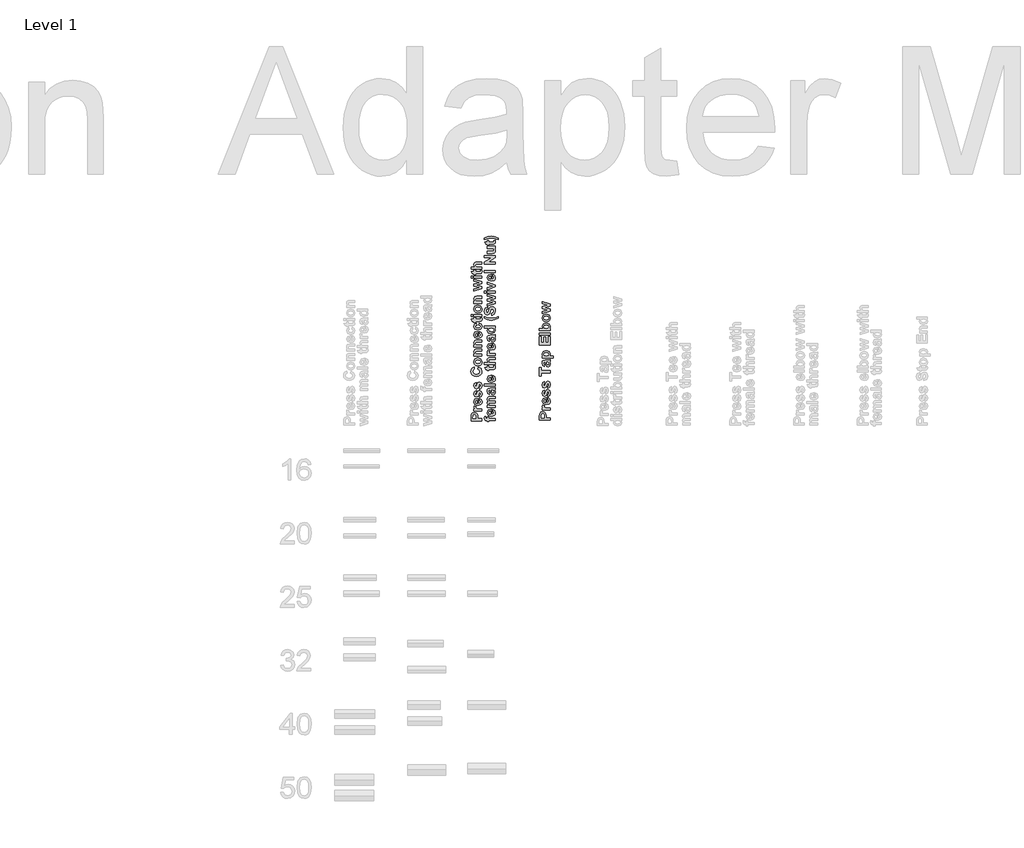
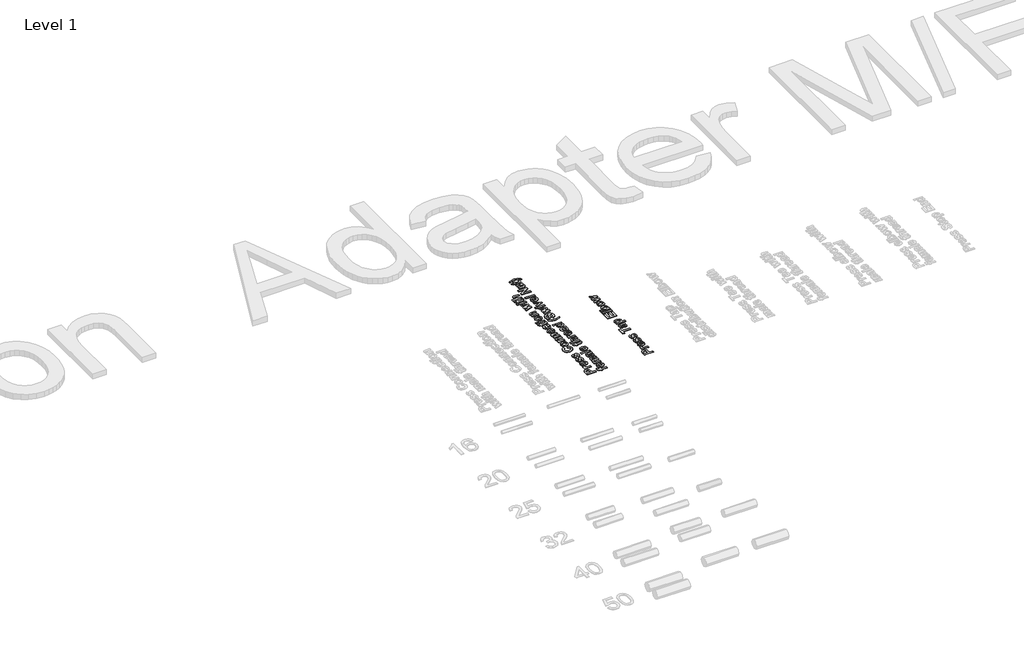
# One storey, part 43 of 58: 2 proxies.
"""IFC4 building model written with IfcOpenShell, lengths in millimetres."""

import ifcopenshell
import ifcopenshell.guid

model = None  # the IFC model being written
_history = None  # IfcOwnerHistory: only IFC2X3 demands one
_inside = {}  # id of a spatial element -> (the spatial element, [elements in it])
_under = {}  # id of a project, library or spatial element -> (it, [spatial elements below it])
_declared = {}  # id of a project -> (the project, [libraries it declares])
_typed = {}  # id of a type object -> (the type object, [elements of that type])
_made_of = {}  # id of a material, layer set ... -> (it, [elements and type objects made of it])


def new_model(schema):
    """Start an empty IFC model of exactly this schema.

    Asked for "IFC4X3", IfcOpenShell would pick the latest addendum, in which some entities
    have other attributes; the version numbers below select the first issue.
    IFC2X3 requires an IfcOwnerHistory on every rooted entity: one is made here for all.
    """
    global model, _history
    if schema == "IFC4X3":
        model = ifcopenshell.file(schema_version=(4, 3, 0, 0))
    else:
        model = ifcopenshell.file(schema=schema)
    _inside.clear()
    _under.clear()
    _declared.clear()
    _typed.clear()
    _made_of.clear()
    _history = None
    if model.schema == "IFC2X3":
        org = make("IfcOrganization", Name="unknown")
        user = make(
            "IfcPersonAndOrganization",
            ThePerson=make("IfcPerson", FamilyName="unknown"),
            TheOrganization=org,
        )
        app = make(
            "IfcApplication",
            ApplicationDeveloper=org,
            Version="unknown",
            ApplicationFullName="unknown",
            ApplicationIdentifier="unknown",
        )
        _history = make(
            "IfcOwnerHistory",
            OwningUser=user,
            OwningApplication=app,
            ChangeAction="ADDED",
            CreationDate=0,
        )
    return model


def make(cls, **values):
    """One entity of the class cls with the attributes given. An attribute that is None is left unset."""
    return model.create_entity(
        cls, **{name: value for name, value in values.items() if value is not None}
    )


def rooted(cls, **values):
    """An entity with a GlobalId (a new one), such as an element, a storey or a relation."""
    return make(cls, GlobalId=ifcopenshell.guid.new(), OwnerHistory=_history, **values)


def si_unit(unit_type, name, prefix=None):
    """IfcSIUnit, for example si_unit("LENGTHUNIT", "METRE", prefix="MILLI")."""
    return make("IfcSIUnit", UnitType=unit_type, Prefix=prefix, Name=name)


def assignment(units):
    """IfcUnitAssignment: the units of a project."""
    return None if units is None else make("IfcUnitAssignment", Units=units)


def point(xyz):
    """IfcCartesianPoint."""
    return None if xyz is None else make("IfcCartesianPoint", Coordinates=xyz)


def direction(xyz):
    """IfcDirection."""
    return None if xyz is None else make("IfcDirection", DirectionRatios=xyz)


def frame(location, z_axis=None, x_axis=None):
    """IfcAxis2Placement3D, a coordinate frame: its origin and axes. An axis left out is left unset."""
    return make(
        "IfcAxis2Placement3D",
        Location=point(location),
        Axis=direction(z_axis),
        RefDirection=direction(x_axis),
    )


def origin():
    """The frame at (0, 0, 0) with its axes left unset."""
    return frame((0.0, 0.0, 0.0))


def place(relative_to, where):
    """IfcLocalPlacement: puts the frame where relative to a parent placement (None: the world)."""
    return make(
        "IfcLocalPlacement", PlacementRelTo=relative_to, RelativePlacement=where
    )


def context(
    kind, dimensions, precision=None, world=None, true_north=None, identifier=None
):
    """IfcGeometricRepresentationContext, for example the 3D "Model" context."""
    return make(
        "IfcGeometricRepresentationContext",
        ContextIdentifier=identifier,
        ContextType=kind,
        CoordinateSpaceDimension=dimensions,
        Precision=precision,
        WorldCoordinateSystem=world,
        TrueNorth=true_north,
    )


def project(units=None, contexts=None):
    """IfcProject with its units and contexts."""
    return rooted(
        "IfcProject",
        Name="project",
        RepresentationContexts=contexts,
        UnitsInContext=assignment(units),
    )


def spatial(cls, under=None, at=None, **own):
    """A site, building, storey or space (cls), placed at a placement, below another one or the project."""
    s = rooted(cls, ObjectPlacement=at, **own)
    if under is not None:
        _under.setdefault(under.id(), (under, []))[1].append(s)
    return s


def polyline(points):
    """IfcPolyline through the points."""
    return make("IfcPolyline", Points=[point(p) for p in points])


def outline(outer, holes=None, kind="AREA"):
    """IfcArbitraryClosedProfileDef: a profile drawn as a closed curve; with holes, ...WithVoids."""
    if holes is None:
        return make("IfcArbitraryClosedProfileDef", ProfileType=kind, OuterCurve=outer)
    return make(
        "IfcArbitraryProfileDefWithVoids",
        ProfileType=kind,
        OuterCurve=outer,
        InnerCurves=holes,
    )


def extrude(swept, where, along, depth):
    """IfcExtrudedAreaSolid: the profile swept, set in the frame where, extruded along a direction by depth."""
    return make(
        "IfcExtrudedAreaSolid",
        SweptArea=swept,
        Position=where,
        ExtrudedDirection=direction(along),
        Depth=depth,
    )


def shape(context_of_items, identifier, shape_type, items):
    """IfcShapeRepresentation: the items that make up one representation, for example the "Body"."""
    return make(
        "IfcShapeRepresentation",
        ContextOfItems=context_of_items,
        RepresentationIdentifier=identifier,
        RepresentationType=shape_type,
        Items=items,
    )


def made_of(thing, what):
    """Note that an element or type object is made of a material, layer set ...; save() writes the relation."""
    if what is not None:
        _made_of.setdefault(what.id(), (what, []))[1].append(thing)
    return thing


def element(
    cls,
    number,
    at=None,
    inside=None,
    cuts=None,
    type_object=None,
    material=None,
    context=None,
    identifier="Body",
    shape_type=None,
    held_by="IfcProductDefinitionShape",
    body=None,
    shapes=None,
    **own,
):
    """One element of the class cls, such as IfcWall. Its Tag is "e" and its number.

    at: its placement. inside: the storey or other place that contains it. cuts: it is an
    opening in that element (IfcRelVoidsElement). A single representation is given by context,
    identifier, shape_type and body (its items); several are given by shapes. held_by: the class
    of the entity that holds the representations. save() writes the other relations.
    """
    e = rooted(cls, Tag="e%d" % number, ObjectPlacement=at, **own)
    if body is not None:
        shapes = [shape(context, identifier, shape_type, body)]
    if shapes is not None:
        e.Representation = make(held_by, Representations=shapes)
    if inside is not None:
        _inside.setdefault(inside.id(), (inside, []))[1].append(e)
    if cuts is not None:
        rooted(
            "IfcRelVoidsElement", RelatingBuildingElement=cuts, RelatedOpeningElement=e
        )
    if type_object is not None:
        _typed.setdefault(type_object.id(), (type_object, []))[1].append(e)
    return made_of(e, material)


def aggregate(whole, parts):
    """IfcRelAggregates: a whole, such as a stair, and the parts it consists of."""
    return rooted("IfcRelAggregates", RelatingObject=whole, RelatedObjects=parts)


def save(model, path):
    """Write the relations noted so far, then the file.

    IfcRelAggregates (storeys below a building ...), IfcRelContainedInSpatialStructure (elements
    in a storey), IfcRelDefinesByType, IfcRelAssociatesMaterial and IfcRelDeclares: one each for
    every whole, place, type object, material and project.
    """
    for whole, parts in _under.values():
        aggregate(whole, parts)
    for where, things in _inside.values():
        rooted(
            "IfcRelContainedInSpatialStructure",
            RelatedElements=things,
            RelatingStructure=where,
        )
    for kind, things in _typed.values():
        rooted("IfcRelDefinesByType", RelatedObjects=things, RelatingType=kind)
    for what, things in _made_of.values():
        rooted("IfcRelAssociatesMaterial", RelatedObjects=things, RelatingMaterial=what)
    for by, libraries in _declared.values():
        rooted("IfcRelDeclares", RelatingContext=by, RelatedDefinitions=libraries)
    model.write(path)


model = new_model("IFC4")

# Units and contexts
model_context = context("Model", 3, world=origin())
ifc_project = project(units=[si_unit("LENGTHUNIT", "METRE", prefix="MILLI")], contexts=[model_context])

# Site, building, storey
site = spatial("IfcSite", under=ifc_project)
building = spatial("IfcBuilding", under=site)
storey = spatial("IfcBuildingStorey", under=building, Name="Level 1", Elevation=27.3876384)

# Proxies
placement = place(None, origin())
element("IfcBuildingElementProxy", 1, Name="50mm Arial", ObjectType="50mm Arial", at=placement, inside=storey, context=model_context, shape_type="SweptSolid", body=[
    extrude(outline(polyline([(30019.1417262, 30425.6094805), (29968.1287562, 30425.6094805), (29968.1287562, 30442.0444627), (29968.8878778, 30454.228364), (29973.8537981, 30461.5349092), (29983.7287046, 30464.4765053), (29991.5792869, 30462.7495037), (29996.5768373, 30458.3592506), (29998.9870483, 30452.9505093), (29999.7082138, 30442.1330269), (29999.7082138, 30435.3262367), (30019.1417262, 30435.3262367), (30019.1417262, 30425.6094805)]), holes=[polyline([(29977.0357827, 30435.3262367), (29990.8011873, 30435.3262367), (29990.8011873, 30441.3612533), (29990.0420657, 30450.0721734), (29987.6571588, 30453.5135245), (29983.8805289, 30454.7597491), (29979.5155798, 30453.0074435), (29977.3647354, 30448.5855603), (29977.0357827, 30440.6527398), (29977.0357827, 30435.3262367)])]), frame((0.0, 0.0, 27.3876384), z_axis=(0.0, 0.0, 1.0), x_axis=(1.0, 0.0, 0.0)), (0.0, 0.0, 1.0), 2.0),
    extrude(outline(polyline([(30019.1417262, 30482.2905583), (30019.1417262, 30472.5738021), (29981.8941608, 30472.5738021), (29981.8941608, 30482.2905583), (29987.0814916, 30482.2905583), (29982.2420915, 30486.1747304), (29981.0844311, 30490.0968585), (29983.1340594, 30496.0559629), (29992.3826906, 30493.221909), (29990.8011873, 30488.7177877), (29991.9082396, 30485.2954145), (29995.8999539, 30483.093962), (30007.995291, 30482.2905583), (30019.1417262, 30482.2905583)])), frame((0.0, 0.0, 27.3876384), z_axis=(0.0, 0.0, 1.0), x_axis=(1.0, 0.0, 0.0)), (0.0, 0.0, 1.0), 2.0),
    extrude(outline(polyline([(30007.8055106, 30521.1575831), (30009.42497, 30530.8743392), (30017.2629003, 30525.0797112), (30019.9514559, 30515.1731746), (30018.3667896, 30506.9841506), (30013.6127907, 30501.2432937), (30000.7962881, 30497.6754223), (29986.32237, 30502.4072801), (29981.0844311, 30514.376097), (29986.4615423, 30527.1925996), (30002.9471325, 30531.6840689), (30002.9471325, 30507.3921785), (30010.1081794, 30509.6821952), (30012.6638887, 30515.1352185), (30011.5125543, 30518.8675663), (30007.8055106, 30521.1575831)]), holes=[polyline([(29997.2790248, 30521.9673127), (29990.643037, 30519.8038162), (29988.3719982, 30514.7936138), (29990.7632312, 30509.580979), (29997.2790248, 30507.5566548), (29997.2790248, 30521.9673127)])]), frame((0.0, 0.0, 27.3876384), z_axis=(0.0, 0.0, 1.0), x_axis=(1.0, 0.0, 0.0)), (0.0, 0.0, 1.0), 2.0),
    extrude(outline(polyline([(30008.6152403, 30534.9229877), (30006.9957809, 30544.6397439), (30011.2215577, 30547.125867), (30012.6638887, 30552.3701319), (30011.2848179, 30557.9496755), (30008.7038045, 30559.2148781), (30006.8819127, 30558.5443207), (30005.604058, 30555.3686621), (30000.8468962, 30540.8061799), (29992.4839068, 30536.542447), (29984.3739579, 30540.1988826), (29981.0844311, 30551.5477502), (29983.7413566, 30562.4158408), (29991.610917, 30567.312175), (29993.2303763, 30557.5954188), (29989.6245488, 30555.7229189), (29988.3719982, 30551.8007907), (29989.4347685, 30547.1828011), (29991.4084846, 30546.2592032), (29993.1671162, 30547.1828011), (29995.8873019, 30555.779853), (30000.2269469, 30566.0469723), (30007.527166, 30568.9316343), (30016.2886942, 30564.7501396), (30019.9514559, 30552.3701319), (30016.9023175, 30540.5974215), (30008.6152403, 30534.9229877)])), frame((0.0, 0.0, 27.3876384), z_axis=(0.0, 0.0, 1.0), x_axis=(1.0, 0.0, 0.0)), (0.0, 0.0, 1.0), 2.0),
    extrude(outline(polyline([(30008.6152403, 30573.7900124), (30006.9957809, 30583.5067686), (30011.2215577, 30585.9928918), (30012.6638887, 30591.2371567), (30011.2848179, 30596.8167003), (30008.7038045, 30598.0819029), (30006.8819127, 30597.4113455), (30005.604058, 30594.2356869), (30000.8468962, 30579.6732046), (29992.4839068, 30575.4094718), (29984.3739579, 30579.0659074), (29981.0844311, 30590.414775), (29983.7413566, 30601.2828655), (29991.610917, 30606.1791997), (29993.2303763, 30596.4624435), (29989.6245488, 30594.5899436), (29988.3719982, 30590.6678155), (29989.4347685, 30586.0498259), (29991.4084846, 30585.126228), (29993.1671162, 30586.0498259), (29995.8873019, 30594.6468778), (30000.2269469, 30604.9139971), (30007.527166, 30607.7986591), (30016.2886942, 30603.6171644), (30019.9514559, 30591.2371567), (30016.9023175, 30579.4644462), (30008.6152403, 30573.7900124)])), frame((0.0, 0.0, 27.3876384), z_axis=(0.0, 0.0, 1.0), x_axis=(1.0, 0.0, 0.0)), (0.0, 0.0, 1.0), 2.0),
    extrude(outline(polyline([(29999.7082138, 30669.338115), (30002.9471325, 30679.0548711), (30015.1500119, 30671.4003952), (30019.1417262, 30657.812119), (30017.4368656, 30648.5350207), (30012.322284, 30641.0734882), (30004.2502912, 30636.158176), (29993.6731973, 30634.5197386), (29982.5583922, 30636.1724095), (29974.2396849, 30641.1304223), (29969.0491911, 30648.7833167), (29967.3190265, 30658.5206325), (29968.7455425, 30667.0480982), (29973.0250904, 30673.8042802), (29982.7038905, 30679.0548711), (29984.3233498, 30669.338115), (29978.3958755, 30665.3084446), (29976.226053, 30657.8500751), (29980.1671592, 30648.0131246), (29992.9267277, 30644.2364948), (30006.2619634, 30647.8992564), (30010.2346997, 30657.4325582), (30007.6979684, 30664.8656237), (29999.7082138, 30669.338115)])), frame((0.0, 0.0, 27.3876384), z_axis=(0.0, 0.0, 1.0), x_axis=(1.0, 0.0, 0.0)), (0.0, 0.0, 1.0), 2.0),
    extrude(outline(polyline([(29999.9865584, 30684.7229789), (29990.5038647, 30687.1205379), (29983.5009681, 30693.90835), (29981.0844311, 30703.7136704), (29986.5627585, 30717.4347929), (30000.4167273, 30722.780274), (30014.4035423, 30717.3778588), (30019.9514559, 30703.7895825), (30017.6424611, 30694.1171084), (30010.867301, 30687.1205379), (29999.9865584, 30684.7229789)]), holes=[polyline([(30000.5179435, 30694.4397351), (30009.5325122, 30697.1282907), (30012.6638887, 30703.7642785), (30009.5325122, 30710.3876143), (30000.4420313, 30713.0635178), (29991.5033747, 30710.3876143), (29988.3719982, 30703.7642785), (29991.5033747, 30697.1282907), (30000.5179435, 30694.4397351)])]), frame((0.0, 0.0, 27.3876384), z_axis=(0.0, 0.0, 1.0), x_axis=(1.0, 0.0, 0.0)), (0.0, 0.0, 1.0), 2.0),
    extrude(outline(polyline([(30019.1417262, 30763.2667581), (30019.1417262, 30753.5500019), (29999.9992104, 30753.5500019), (29992.1296501, 30752.9427047), (29989.3588563, 30750.9563365), (29988.3719982, 30747.6541577), (29989.7826992, 30743.2069704), (29993.527699, 30740.5120888), (30002.1500549, 30739.7845973), (30019.1417262, 30739.7845973), (30019.1417262, 30730.0678411), (29981.8941608, 30730.0678411), (29981.8941608, 30739.7845973), (29987.2586199, 30739.7845973), (29982.6279783, 30745.0003952), (29981.0844311, 30751.4118095), (29982.2610695, 30757.0546132), (29985.2595998, 30760.9261333), (29989.3904864, 30762.7543511), (29996.0138221, 30763.2667581), (30019.1417262, 30763.2667581)])), frame((0.0, 0.0, 27.3876384), z_axis=(0.0, 0.0, 1.0), x_axis=(1.0, 0.0, 0.0)), (0.0, 0.0, 1.0), 2.0),
    extrude(outline(polyline([(30019.1417262, 30806.1824313), (30019.1417262, 30796.4656751), (29999.9992104, 30796.4656751), (29992.1296501, 30795.8583778), (29989.3588563, 30793.8720097), (29988.3719982, 30790.5698309), (29989.7826992, 30786.1226436), (29993.527699, 30783.427762), (30002.1500549, 30782.7002705), (30019.1417262, 30782.7002705), (30019.1417262, 30772.9835143), (29981.8941608, 30772.9835143), (29981.8941608, 30782.7002705), (29987.2586199, 30782.7002705), (29982.6279783, 30787.9160683), (29981.0844311, 30794.3274827), (29982.2610695, 30799.9702864), (29985.2595998, 30803.8418064), (29989.3904864, 30805.6700242), (29996.0138221, 30806.1824313), (30019.1417262, 30806.1824313)])), frame((0.0, 0.0, 27.3876384), z_axis=(0.0, 0.0, 1.0), x_axis=(1.0, 0.0, 0.0)), (0.0, 0.0, 1.0), 2.0),
    extrude(outline(polyline([(30007.8055106, 30836.9521592), (30009.42497, 30846.6689154), (30017.2629003, 30840.8742874), (30019.9514559, 30830.9677508), (30018.3667896, 30822.7787268), (30013.6127907, 30817.0378699), (30000.7962881, 30813.4699984), (29986.32237, 30818.2018563), (29981.0844311, 30830.1706731), (29986.4615423, 30842.9871758), (30002.9471325, 30847.4786451), (30002.9471325, 30823.1867546), (30010.1081794, 30825.4767714), (30012.6638887, 30830.9297947), (30011.5125543, 30834.6621425), (30007.8055106, 30836.9521592)]), holes=[polyline([(29997.2790248, 30837.7618889), (29990.643037, 30835.5983924), (29988.3719982, 30830.58819), (29990.7632312, 30825.3755552), (29997.2790248, 30823.351231), (29997.2790248, 30837.7618889)])]), frame((0.0, 0.0, 27.3876384), z_axis=(0.0, 0.0, 1.0), x_axis=(1.0, 0.0, 0.0)), (0.0, 0.0, 1.0), 2.0),
    extrude(outline(polyline([(29992.4206467, 30885.5359402), (29994.040106, 30875.819184), (29989.7953512, 30873.7505777), (29988.3719982, 30869.556431), (29991.0415758, 30864.0907556), (29999.9612543, 30862.0537794), (30009.7918788, 30864.1729938), (30012.6638887, 30869.8600796), (30011.0254513, 30874.2313547), (30005.3763216, 30876.6289137), (30006.9957809, 30886.3456699), (30016.6809071, 30880.7471482), (30019.9514559, 30869.6449952), (30014.8020812, 30857.037251), (30000.5558996, 30852.3370232), (29986.2148278, 30857.0056209), (29981.0844311, 30869.6449952), (29983.8868549, 30880.0070047), (29992.4206467, 30885.5359402)])), frame((0.0, 0.0, 27.3876384), z_axis=(0.0, 0.0, 1.0), x_axis=(1.0, 0.0, 0.0)), (0.0, 0.0, 1.0), 2.0),
    extrude(outline(polyline([(29981.8941608, 30911.44729), (29989.1817279, 30911.44729), (29989.1817279, 30904.1597229), (30005.1612371, 30904.1597229), (30010.8103669, 30904.3811333), (30012.1388296, 30905.3869694), (30012.6638887, 30907.2974254), (30011.7276388, 30911.8521549), (30018.6356451, 30912.2570197), (30019.9514559, 30904.2988952), (30019.04051, 30899.389909), (30016.6872331, 30896.1826203), (30012.777757, 30894.7592674), (30005.7052743, 30894.4429667), (29989.1817279, 30894.4429667), (29989.1817279, 30889.5845886), (29981.8941608, 30889.5845886), (29981.8941608, 30894.4429667), (29974.6065936, 30894.4429667), (29968.9384859, 30904.1597229), (29981.8941608, 30904.1597229), (29981.8941608, 30911.44729)])), frame((0.0, 0.0, 27.3876384), z_axis=(0.0, 0.0, 1.0), x_axis=(1.0, 0.0, 0.0)), (0.0, 0.0, 1.0), 2.0),
    extrude(outline(polyline([(29977.0357827, 30917.1153978), (29968.1287562, 30917.1153978), (29968.1287562, 30926.832154), (29977.0357827, 30926.832154), (29977.0357827, 30917.1153978)])), frame((0.0, 0.0, 27.3876384), z_axis=(0.0, 0.0, 1.0), x_axis=(1.0, 0.0, 0.0)), (0.0, 0.0, 1.0), 2.0),
    extrude(outline(polyline([(30019.1417262, 30917.1153978), (29981.8941608, 30917.1153978), (29981.8941608, 30926.832154), (30019.1417262, 30926.832154), (30019.1417262, 30917.1153978)])), frame((0.0, 0.0, 27.3876384), z_axis=(0.0, 0.0, 1.0), x_axis=(1.0, 0.0, 0.0)), (0.0, 0.0, 1.0), 2.0),
    extrude(outline(polyline([(29999.9865584, 30934.1197211), (29990.5038647, 30936.5172801), (29983.5009681, 30943.3050922), (29981.0844311, 30953.1104126), (29986.5627585, 30966.8315351), (30000.4167273, 30972.1770162), (30014.4035423, 30966.774601), (30019.9514559, 30953.1863248), (30017.6424611, 30943.5138507), (30010.867301, 30936.5172801), (29999.9865584, 30934.1197211)]), holes=[polyline([(30000.5179435, 30943.8364773), (30009.5325122, 30946.5250329), (30012.6638887, 30953.1610207), (30009.5325122, 30959.7843565), (30000.4420313, 30962.46026), (29991.5033747, 30959.7843565), (29988.3719982, 30953.1610207), (29991.5033747, 30946.5250329), (30000.5179435, 30943.8364773)])]), frame((0.0, 0.0, 27.3876384), z_axis=(0.0, 0.0, 1.0), x_axis=(1.0, 0.0, 0.0)), (0.0, 0.0, 1.0), 2.0),
    extrude(outline(polyline([(30019.1417262, 31012.6635003), (30019.1417262, 31002.9467441), (29999.9992104, 31002.9467441), (29992.1296501, 31002.3394469), (29989.3588563, 31000.3530788), (29988.3719982, 30997.0508999), (29989.7826992, 30992.6037127), (29993.527699, 30989.9088311), (30002.1500549, 30989.1813395), (30019.1417262, 30989.1813395), (30019.1417262, 30979.4645834), (29981.8941608, 30979.4645834), (29981.8941608, 30989.1813395), (29987.2586199, 30989.1813395), (29982.6279783, 30994.3971374), (29981.0844311, 31000.8085517), (29982.2610695, 31006.4513554), (29985.2595998, 31010.3228755), (29989.3904864, 31012.1510933), (29996.0138221, 31012.6635003), (30019.1417262, 31012.6635003)])), frame((0.0, 0.0, 27.3876384), z_axis=(0.0, 0.0, 1.0), x_axis=(1.0, 0.0, 0.0)), (0.0, 0.0, 1.0), 2.0),
    extrude(outline(polyline([(30019.1417262, 31049.5821131), (29981.8941608, 31037.7651205), (29981.8941608, 31047.3680085), (30006.2999195, 31054.364579), (29981.8941608, 31060.9056766), (29981.8941608, 31070.6477368), (30006.2999195, 31077.0370101), (29981.8941608, 31084.0588847), (29981.8941608, 31093.6364686), (30019.1417262, 31081.8447801), (30019.1417262, 31072.3051523), (29995.1914404, 31065.7007945), (30019.1417262, 31059.2609132), (30019.1417262, 31049.5821131)])), frame((0.0, 0.0, 27.3876384), z_axis=(0.0, 0.0, 1.0), x_axis=(1.0, 0.0, 0.0)), (0.0, 0.0, 1.0), 2.0),
    extrude(outline(polyline([(29977.0357827, 31098.4948467), (29968.1287562, 31098.4948467), (29968.1287562, 31108.2116029), (29977.0357827, 31108.2116029), (29977.0357827, 31098.4948467)])), frame((0.0, 0.0, 27.3876384), z_axis=(0.0, 0.0, 1.0), x_axis=(1.0, 0.0, 0.0)), (0.0, 0.0, 1.0), 2.0),
    extrude(outline(polyline([(30019.1417262, 31098.4948467), (29981.8941608, 31098.4948467), (29981.8941608, 31108.2116029), (30019.1417262, 31108.2116029), (30019.1417262, 31098.4948467)])), frame((0.0, 0.0, 27.3876384), z_axis=(0.0, 0.0, 1.0), x_axis=(1.0, 0.0, 0.0)), (0.0, 0.0, 1.0), 2.0),
    extrude(outline(polyline([(29981.8941608, 31135.7424121), (29989.1817279, 31135.7424121), (29989.1817279, 31128.4548449), (30005.1612371, 31128.4548449), (30010.8103669, 31128.6762554), (30012.1388296, 31129.6820915), (30012.6638887, 31131.5925475), (30011.7276388, 31136.1472769), (30018.6356451, 31136.5521418), (30019.9514559, 31128.5940172), (30019.04051, 31123.685031), (30016.6872331, 31120.4777424), (30012.777757, 31119.0543894), (30005.7052743, 31118.7380887), (29989.1817279, 31118.7380887), (29989.1817279, 31113.8797107), (29981.8941608, 31113.8797107), (29981.8941608, 31118.7380887), (29974.6065936, 31118.7380887), (29968.9384859, 31128.4548449), (29981.8941608, 31128.4548449), (29981.8941608, 31135.7424121)])), frame((0.0, 0.0, 27.3876384), z_axis=(0.0, 0.0, 1.0), x_axis=(1.0, 0.0, 0.0)), (0.0, 0.0, 1.0), 2.0),
    extrude(outline(polyline([(29968.1287562, 31151.127276), (29986.6007146, 31151.127276), (29981.0844311, 31162.2484072), (29982.3433077, 31168.2454676), (29985.5695744, 31172.268812), (29989.9155455, 31174.1160078), (29997.3043288, 31174.6094368), (30019.1417262, 31174.6094368), (30019.1417262, 31164.8926807), (29999.328653, 31164.8926807), (29991.8323274, 31164.3486435), (29989.3082482, 31162.4255355), (29988.3719982, 31158.9841844), (29989.5739407, 31154.7331035), (29993.1924203, 31151.9939398), (30000.3534671, 31151.127276), (30019.1417262, 31151.127276), (30019.1417262, 31141.4105199), (29968.1287562, 31141.4105199), (29968.1287562, 31151.127276)])), frame((0.0, 0.0, 27.3876384), z_axis=(0.0, 0.0, 1.0), x_axis=(1.0, 0.0, 0.0)), (0.0, 0.0, 1.0), 2.0),
    extrude(outline(polyline([(30044.8498357, 30421.5608321), (30044.8498357, 30426.4192102), (30042.1296501, 30426.4192102), (30035.3355119, 30427.4060683), (30031.6854023, 30431.0371998), (30030.2747014, 30437.7301217), (30031.4892959, 30445.8527226), (30038.1063057, 30444.6381281), (30037.5622686, 30440.1213547), (30038.5364746, 30437.0658903), (30042.2814744, 30436.1359664), (30044.8498357, 30436.1359664), (30044.8498357, 30443.4235335), (30052.1374028, 30443.4235335), (30052.1374028, 30436.1359664), (30082.0974011, 30436.1359664), (30082.0974011, 30426.4192102), (30052.1374028, 30426.4192102), (30052.1374028, 30421.5608321), (30044.8498357, 30421.5608321)])), frame((0.0, 0.0, 27.3876384), z_axis=(0.0, 0.0, 1.0), x_axis=(1.0, 0.0, 0.0)), (0.0, 0.0, 1.0), 2.0),
    extrude(outline(polyline([(30070.7611855, 30470.1446131), (30072.3806449, 30479.8613693), (30080.2185752, 30474.0667412), (30082.9071308, 30464.1602046), (30081.3224645, 30455.9711806), (30076.5684656, 30450.2303237), (30063.751963, 30446.6624523), (30049.2780449, 30451.3943101), (30044.040106, 30463.363127), (30049.4172172, 30476.1796296), (30065.9028074, 30480.6710989), (30065.9028074, 30456.3792085), (30073.0638543, 30458.6692252), (30075.6195636, 30464.1222485), (30074.4682292, 30467.8545963), (30070.7611855, 30470.1446131)]), holes=[polyline([(30060.2346997, 30470.9543427), (30053.5987119, 30468.7908462), (30051.3276732, 30463.7806438), (30053.7189061, 30458.568009), (30060.2346997, 30456.5436848), (30060.2346997, 30470.9543427)])]), frame((0.0, 0.0, 27.3876384), z_axis=(0.0, 0.0, 1.0), x_axis=(1.0, 0.0, 0.0)), (0.0, 0.0, 1.0), 2.0),
    extrude(outline(polyline([(30044.8498357, 30487.1489364), (30044.8498357, 30496.8656926), (30049.8347341, 30496.8656926), (30044.040106, 30507.7337832), (30045.463459, 30513.5473892), (30049.7714739, 30517.5897116), (30045.463459, 30522.7580644), (30044.040106, 30528.6855387), (30045.7038475, 30535.4543728), (30050.5938556, 30539.6042374), (30058.2989396, 30540.5910954), (30082.0974011, 30540.5910954), (30082.0974011, 30530.8743392), (30060.6522165, 30530.8743392), (30053.4532136, 30529.8874812), (30051.3276732, 30525.8135287), (30052.5992018, 30522.0495509), (30056.3252235, 30519.5064936), (30064.0809157, 30518.728394), (30082.0974011, 30518.728394), (30082.0974011, 30509.0116378), (30061.5378584, 30509.0116378), (30054.4717017, 30508.5055568), (30052.1057728, 30506.9430315), (30051.3276732, 30504.0646955), (30052.5612457, 30500.1299154), (30056.1291171, 30497.6248142), (30063.8658312, 30496.8656926), (30082.0974011, 30496.8656926), (30082.0974011, 30487.1489364), (30044.8498357, 30487.1489364)])), frame((0.0, 0.0, 27.3876384), z_axis=(0.0, 0.0, 1.0), x_axis=(1.0, 0.0, 0.0)), (0.0, 0.0, 1.0), 2.0),
    extrude(outline(polyline([(30056.1860513, 30558.4051485), (30054.5665919, 30549.4981219), (30046.6211194, 30554.3881301), (30044.040106, 30564.6932055), (30045.6026313, 30573.9418367), (30049.5627155, 30578.2182216), (30058.3748518, 30579.4581202), (30069.8628917, 30579.4581202), (30077.0998507, 30579.9705273), (30082.0974011, 30581.8873092), (30082.0974011, 30572.1705531), (30079.0103067, 30571.2596072), (30081.6229501, 30565.7180196), (30082.9071308, 30559.8095234), (30079.7884063, 30551.0732992), (30071.9125199, 30547.8786626), (30066.2950203, 30549.3020155), (30062.5120644, 30553.2937298), (30060.2220476, 30560.6951652), (30057.8055106, 30569.741364), (30052.5802238, 30568.5330955), (30051.3276732, 30563.984692), (30052.4030954, 30560.4547767), (30056.1860513, 30558.4051485)]), holes=[polyline([(30065.0930778, 30569.741364), (30066.4405186, 30564.2630366), (30067.9777398, 30559.3540504), (30071.0774862, 30557.5954188), (30074.2721228, 30559.0061197), (30075.6195636, 30562.5929692), (30074.0507124, 30567.2362628), (30071.1407463, 30569.3871073), (30066.8517094, 30569.741364), (30065.0930778, 30569.741364)])]), frame((0.0, 0.0, 27.3876384), z_axis=(0.0, 0.0, 1.0), x_axis=(1.0, 0.0, 0.0)), (0.0, 0.0, 1.0), 2.0),
    extrude(outline(polyline([(30082.0974011, 30589.1748764), (30031.0844311, 30589.1748764), (30031.0844311, 30598.8916326), (30082.0974011, 30598.8916326), (30082.0974011, 30589.1748764)])), frame((0.0, 0.0, 27.3876384), z_axis=(0.0, 0.0, 1.0), x_axis=(1.0, 0.0, 0.0)), (0.0, 0.0, 1.0), 2.0),
    extrude(outline(polyline([(30070.7611855, 30629.6613605), (30072.3806449, 30639.3781167), (30080.2185752, 30633.5834887), (30082.9071308, 30623.6769521), (30081.3224645, 30615.4879281), (30076.5684656, 30609.7470711), (30063.751963, 30606.1791997), (30049.2780449, 30610.9110576), (30044.040106, 30622.8798744), (30049.4172172, 30635.6963771), (30065.9028074, 30640.1878464), (30065.9028074, 30615.8959559), (30073.0638543, 30618.1859727), (30075.6195636, 30623.638996), (30074.4682292, 30627.3713438), (30070.7611855, 30629.6613605)]), holes=[polyline([(30060.2346997, 30630.4710902), (30053.5987119, 30628.3075937), (30051.3276732, 30623.2973913), (30053.7189061, 30618.0847565), (30060.2346997, 30616.0604323), (30060.2346997, 30630.4710902)])]), frame((0.0, 0.0, 27.3876384), z_axis=(0.0, 0.0, 1.0), x_axis=(1.0, 0.0, 0.0)), (0.0, 0.0, 1.0), 2.0),
    extrude(outline(polyline([(30044.8498357, 30684.7229789), (30052.1374028, 30684.7229789), (30052.1374028, 30677.4354118), (30068.116912, 30677.4354118), (30073.7660418, 30677.6568222), (30075.0945045, 30678.6626583), (30075.6195636, 30680.5731143), (30074.6833137, 30685.1278438), (30081.59132, 30685.5327086), (30082.9071308, 30677.5745841), (30081.9961849, 30672.6655979), (30079.642908, 30669.4583092), (30075.7334319, 30668.0349562), (30068.6609492, 30667.7186556), (30052.1374028, 30667.7186556), (30052.1374028, 30662.8602775), (30044.8498357, 30662.8602775), (30044.8498357, 30667.7186556), (30037.5622686, 30667.7186556), (30031.8941608, 30677.4354118), (30044.8498357, 30677.4354118), (30044.8498357, 30684.7229789)])), frame((0.0, 0.0, 27.3876384), z_axis=(0.0, 0.0, 1.0), x_axis=(1.0, 0.0, 0.0)), (0.0, 0.0, 1.0), 2.0),
    extrude(outline(polyline([(30031.0844311, 30700.1078429), (30049.5563895, 30700.1078429), (30044.040106, 30711.228974), (30045.2989826, 30717.2260345), (30048.5252493, 30721.2493788), (30052.8712204, 30723.0965747), (30060.2600037, 30723.5900037), (30082.0974011, 30723.5900037), (30082.0974011, 30713.8732475), (30062.2843279, 30713.8732475), (30054.7880024, 30713.3292104), (30052.2639231, 30711.4061024), (30051.3276732, 30707.9647512), (30052.5296157, 30703.7136704), (30056.1480952, 30700.9745067), (30063.3091421, 30700.1078429), (30082.0974011, 30700.1078429), (30082.0974011, 30690.3910867), (30031.0844311, 30690.3910867), (30031.0844311, 30700.1078429)])), frame((0.0, 0.0, 27.3876384), z_axis=(0.0, 0.0, 1.0), x_axis=(1.0, 0.0, 0.0)), (0.0, 0.0, 1.0), 2.0),
    extrude(outline(polyline([(30082.0974011, 30743.0235161), (30082.0974011, 30733.3067599), (30044.8498357, 30733.3067599), (30044.8498357, 30743.0235161), (30050.0371665, 30743.0235161), (30045.1977664, 30746.9076881), (30044.040106, 30750.8298163), (30046.0897343, 30756.7889207), (30055.3383655, 30753.9548668), (30053.7568622, 30749.4507454), (30054.8639145, 30746.0283723), (30058.8556288, 30743.8269197), (30070.9509659, 30743.0235161), (30082.0974011, 30743.0235161)])), frame((0.0, 0.0, 27.3876384), z_axis=(0.0, 0.0, 1.0), x_axis=(1.0, 0.0, 0.0)), (0.0, 0.0, 1.0), 2.0),
    extrude(outline(polyline([(30070.7611855, 30781.8905408), (30072.3806449, 30791.607297), (30080.2185752, 30785.812669), (30082.9071308, 30775.9061324), (30081.3224645, 30767.7171084), (30076.5684656, 30761.9762514), (30063.751963, 30758.40838), (30049.2780449, 30763.1402379), (30044.040106, 30775.1090547), (30049.4172172, 30787.9255574), (30065.9028074, 30792.4170267), (30065.9028074, 30768.1251362), (30073.0638543, 30770.415153), (30075.6195636, 30775.8681763), (30074.4682292, 30779.6005241), (30070.7611855, 30781.8905408)]), holes=[polyline([(30060.2346997, 30782.7002705), (30053.5987119, 30780.536774), (30051.3276732, 30775.5265716), (30053.7189061, 30770.3139368), (30060.2346997, 30768.2896126), (30060.2346997, 30782.7002705)])]), frame((0.0, 0.0, 27.3876384), z_axis=(0.0, 0.0, 1.0), x_axis=(1.0, 0.0, 0.0)), (0.0, 0.0, 1.0), 2.0),
    extrude(outline(polyline([(30056.1860513, 30807.8018907), (30054.5665919, 30798.8948642), (30046.6211194, 30803.7848723), (30044.040106, 30814.0899477), (30045.6026313, 30823.3385789), (30049.5627155, 30827.6149638), (30058.3748518, 30828.8548624), (30069.8628917, 30828.8548624), (30077.0998507, 30829.3672695), (30082.0974011, 30831.2840515), (30082.0974011, 30821.5672953), (30079.0103067, 30820.6563494), (30081.6229501, 30815.1147619), (30082.9071308, 30809.2062656), (30079.7884063, 30800.4700414), (30071.9125199, 30797.2754048), (30066.2950203, 30798.6987578), (30062.5120644, 30802.690472), (30060.2220476, 30810.0919074), (30057.8055106, 30819.1381062), (30052.5802238, 30817.9298377), (30051.3276732, 30813.3814343), (30052.4030954, 30809.8515189), (30056.1860513, 30807.8018907)]), holes=[polyline([(30065.0930778, 30819.1381062), (30066.4405186, 30813.6597788), (30067.9777398, 30808.7507926), (30071.0774862, 30806.992161), (30074.2721228, 30808.4028619), (30075.6195636, 30811.9897114), (30074.0507124, 30816.633005), (30071.1407463, 30818.7838495), (30066.8517094, 30819.1381062), (30065.0930778, 30819.1381062)])]), frame((0.0, 0.0, 27.3876384), z_axis=(0.0, 0.0, 1.0), x_axis=(1.0, 0.0, 0.0)), (0.0, 0.0, 1.0), 2.0),
    extrude(outline(polyline([(30082.0974011, 30871.7705356), (30082.0974011, 30862.0537794), (30076.732942, 30862.0537794), (30081.3825616, 30856.9233827), (30082.9071308, 30850.9706044), (30077.7451041, 30840.5010526), (30063.3344461, 30836.1424296), (30048.9617442, 30840.4947266), (30044.040106, 30851.5019895), (30049.1388726, 30862.0537794), (30031.0844311, 30862.0537794), (30031.0844311, 30871.7705356), (30082.0974011, 30871.7705356)]), holes=[polyline([(30062.7651049, 30845.8591857), (30071.6468274, 30847.4786451), (30075.6195636, 30854.0197427), (30072.6400114, 30859.7131545), (30063.739311, 30862.0537794), (30054.2313132, 30859.7827407), (30051.3276732, 30853.9564826), (30054.1996831, 30848.1871586), (30062.7651049, 30845.8591857)])]), frame((0.0, 0.0, 27.3876384), z_axis=(0.0, 0.0, 1.0), x_axis=(1.0, 0.0, 0.0)), (0.0, 0.0, 1.0), 2.0),
    extrude(outline(polyline([(30095.8628057, 30916.3056681), (30095.8628057, 30909.8278307), (30079.6871901, 30901.9899004), (30063.4356623, 30899.3013448), (30045.00166, 30902.5908716), (30031.0844311, 30909.8278307), (30031.0844311, 30916.3056681), (30048.4556632, 30910.5806262), (30063.6380947, 30909.018101), (30074.9679843, 30909.9543509), (30085.9815732, 30912.5227123), (30095.8628057, 30916.3056681)])), frame((0.0, 0.0, 27.3876384), z_axis=(0.0, 0.0, 1.0), x_axis=(1.0, 0.0, 0.0)), (0.0, 0.0, 1.0), 2.0),
    extrude(outline(polyline([(30065.0930778, 30921.9737759), (30064.2833481, 30931.6905321), (30071.6468274, 30935.48614), (30074.0001043, 30943.191224), (30071.9188459, 30950.9469161), (30067.0541418, 30953.5532335), (30064.0113295, 30952.4714853), (30061.828855, 30948.6822034), (30059.6653585, 30940.2559539), (30054.6931122, 30928.3883532), (30044.4576229, 30923.5932353), (30037.1953598, 30925.7946878), (30032.0459851, 30932.146005), (30030.2747014, 30942.1537578), (30034.6902586, 30956.5707418), (30046.4692951, 30961.6505303), (30046.4692951, 30951.9337742), (30040.8834255, 30949.0048301), (30039.1817279, 30942.2676261), (30040.9909677, 30935.005363), (30044.1033662, 30933.3099915), (30047.1525045, 30934.8535387), (30050.4736614, 30944.3741884), (30054.0668369, 30955.5522537), (30059.2098855, 30961.2203614), (30067.2692263, 30963.2699897), (30075.4171312, 30960.8471267), (30081.0599349, 30953.9897284), (30082.9071308, 30942.9381835), (30078.3587273, 30928.1353127), (30065.0930778, 30921.9737759)])), frame((0.0, 0.0, 27.3876384), z_axis=(0.0, 0.0, 1.0), x_axis=(1.0, 0.0, 0.0)), (0.0, 0.0, 1.0), 2.0),
    extrude(outline(polyline([(30082.0974011, 30979.1356307), (30044.8498357, 30967.3186381), (30044.8498357, 30976.9215261), (30069.2555944, 30983.9180966), (30044.8498357, 30990.4591942), (30044.8498357, 31000.2012544), (30069.2555944, 31006.5905277), (30044.8498357, 31013.6124023), (30044.8498357, 31023.1899862), (30082.0974011, 31011.3982977), (30082.0974011, 31001.8586699), (30058.1471153, 30995.2543122), (30082.0974011, 30988.8144308), (30082.0974011, 30979.1356307)])), frame((0.0, 0.0, 27.3876384), z_axis=(0.0, 0.0, 1.0), x_axis=(1.0, 0.0, 0.0)), (0.0, 0.0, 1.0), 2.0),
    extrude(outline(polyline([(30082.0974011, 31028.0483643), (30044.8498357, 31028.0483643), (30044.8498357, 31037.7651205), (30082.0974011, 31037.7651205), (30082.0974011, 31028.0483643)])), frame((0.0, 0.0, 27.3876384), z_axis=(0.0, 0.0, 1.0), x_axis=(1.0, 0.0, 0.0)), (0.0, 0.0, 1.0), 2.0),
    extrude(outline(polyline([(30039.9914576, 31028.0483643), (30031.0844311, 31028.0483643), (30031.0844311, 31037.7651205), (30039.9914576, 31037.7651205), (30039.9914576, 31028.0483643)])), frame((0.0, 0.0, 27.3876384), z_axis=(0.0, 0.0, 1.0), x_axis=(1.0, 0.0, 0.0)), (0.0, 0.0, 1.0), 2.0),
    extrude(outline(polyline([(30082.0974011, 31057.4769775), (30044.8498357, 31043.0283634), (30044.8498357, 31052.7451196), (30063.8531792, 31059.653126), (30070.2044964, 31061.6521461), (30067.0161858, 31062.6390042), (30063.8531792, 31063.6638183), (30044.8498357, 31070.5591726), (30044.8498357, 31080.2759288), (30082.0974011, 31066.0297472), (30082.0974011, 31057.4769775)])), frame((0.0, 0.0, 27.3876384), z_axis=(0.0, 0.0, 1.0), x_axis=(1.0, 0.0, 0.0)), (0.0, 0.0, 1.0), 2.0),
    extrude(outline(polyline([(30070.7611855, 31107.4018732), (30072.3806449, 31117.1186294), (30080.2185752, 31111.3240013), (30082.9071308, 31101.4174648), (30081.3224645, 31093.2284407), (30076.5684656, 31087.4875838), (30063.751963, 31083.9197124), (30049.2780449, 31088.6515702), (30044.040106, 31100.6203871), (30049.4172172, 31113.4368897), (30065.9028074, 31117.9283591), (30065.9028074, 31093.6364686), (30073.0638543, 31095.9264853), (30075.6195636, 31101.3795087), (30074.4682292, 31105.1118564), (30070.7611855, 31107.4018732)]), holes=[polyline([(30060.2346997, 31108.2116029), (30053.5987119, 31106.0481064), (30051.3276732, 31101.037904), (30053.7189061, 31095.8252691), (30060.2346997, 31093.8009449), (30060.2346997, 31108.2116029)])]), frame((0.0, 0.0, 27.3876384), z_axis=(0.0, 0.0, 1.0), x_axis=(1.0, 0.0, 0.0)), (0.0, 0.0, 1.0), 2.0),
    extrude(outline(polyline([(30082.0974011, 31125.2159262), (30031.0844311, 31125.2159262), (30031.0844311, 31134.9326824), (30082.0974011, 31134.9326824), (30082.0974011, 31125.2159262)])), frame((0.0, 0.0, 27.3876384), z_axis=(0.0, 0.0, 1.0), x_axis=(1.0, 0.0, 0.0)), (0.0, 0.0, 1.0), 2.0),
    extrude(outline(polyline([(30082.0974011, 31164.082951), (30031.0844311, 31164.082951), (30031.0844311, 31174.2678321), (30065.4220304, 31195.6624086), (30031.0844311, 31195.6624086), (30031.0844311, 31205.3791648), (30082.0974011, 31205.3791648), (30082.0974011, 31194.877983), (30048.2658828, 31173.7997072), (30082.0974011, 31173.7997072), (30082.0974011, 31164.082951)])), frame((0.0, 0.0, 27.3876384), z_axis=(0.0, 0.0, 1.0), x_axis=(1.0, 0.0, 0.0)), (0.0, 0.0, 1.0), 2.0),
    extrude(outline(polyline([(30082.0974011, 31238.5780818), (30076.6317257, 31238.5780818), (30081.2307373, 31233.4982932), (30082.9071308, 31226.8496534), (30081.2623674, 31220.4603801), (30076.6380518, 31216.3611236), (30068.3952566, 31215.095921), (30044.8498357, 31215.095921), (30044.8498357, 31224.8126772), (30062.0692435, 31224.8126772), (30071.7543696, 31225.3377362), (30074.5757715, 31227.2608442), (30075.6195636, 31230.8097376), (30074.2278407, 31235.2063168), (30070.7675116, 31237.8632423), (30060.6522165, 31238.5780818), (30044.8498357, 31238.5780818), (30044.8498357, 31248.2948379), (30082.0974011, 31248.2948379), (30082.0974011, 31238.5780818)])), frame((0.0, 0.0, 27.3876384), z_axis=(0.0, 0.0, 1.0), x_axis=(1.0, 0.0, 0.0)), (0.0, 0.0, 1.0), 2.0),
    extrude(outline(polyline([(30044.8498357, 31275.8256472), (30052.1374028, 31275.8256472), (30052.1374028, 31268.53808), (30068.116912, 31268.53808), (30073.7660418, 31268.7594905), (30075.0945045, 31269.7653266), (30075.6195636, 31271.6757825), (30074.6833137, 31276.230512), (30081.59132, 31276.6353768), (30082.9071308, 31268.6772523), (30081.9961849, 31263.7682661), (30079.642908, 31260.5609774), (30075.7334319, 31259.1376245), (30068.6609492, 31258.8213238), (30052.1374028, 31258.8213238), (30052.1374028, 31253.9629457), (30044.8498357, 31253.9629457), (30044.8498357, 31258.8213238), (30037.5622686, 31258.8213238), (30031.8941608, 31268.53808), (30044.8498357, 31268.53808), (30044.8498357, 31275.8256472)])), frame((0.0, 0.0, 27.3876384), z_axis=(0.0, 0.0, 1.0), x_axis=(1.0, 0.0, 0.0)), (0.0, 0.0, 1.0), 2.0),
    extrude(outline(polyline([(30095.8628057, 31279.8742956), (30086.6647826, 31283.473797), (30079.2823252, 31285.4095571), (30071.3431788, 31286.7316938), (30063.6380947, 31287.1618627), (30048.4556632, 31285.6056635), (30031.0844311, 31279.8742956), (30031.0844311, 31286.352133), (30046.456643, 31294.1141512), (30062.9295813, 31296.8786189), (30078.0361007, 31294.6645143), (30095.8628057, 31286.352133), (30095.8628057, 31279.8742956)])), frame((0.0, 0.0, 27.3876384), z_axis=(0.0, 0.0, 1.0), x_axis=(1.0, 0.0, 0.0)), (0.0, 0.0, 1.0), 2.0),
])
element("IfcBuildingElementProxy", 2, Name="50mm Arial", ObjectType="50mm Arial", at=placement, inside=storey, context=model_context, shape_type="SweptSolid", body=[
    extrude(outline(polyline([(30341.1020112, 30429.9562118), (30290.0890412, 30429.9562118), (30290.0890412, 30446.3911939), (30290.8481628, 30458.5750953), (30295.8140831, 30465.8816404), (30305.6889896, 30468.8232365), (30313.5395719, 30467.096235), (30318.5371223, 30462.7059818), (30320.9473333, 30457.2972406), (30321.6684988, 30446.4797581), (30321.6684988, 30439.672968), (30341.1020112, 30439.672968), (30341.1020112, 30429.9562118)]), holes=[polyline([(30298.9960677, 30439.672968), (30312.7614723, 30439.672968), (30312.7614723, 30445.7079845), (30312.0023507, 30454.4189046), (30309.6174438, 30457.8602558), (30305.8408139, 30459.1064804), (30301.4758648, 30457.3541747), (30299.3250204, 30452.9322915), (30298.9960677, 30444.999471), (30298.9960677, 30439.672968)])]), frame((0.0, 0.0, 27.3876384), z_axis=(0.0, 0.0, 1.0), x_axis=(1.0, 0.0, 0.0)), (0.0, 0.0, 1.0), 2.0),
    extrude(outline(polyline([(30341.1020112, 30486.6372896), (30341.1020112, 30476.9205334), (30303.8544458, 30476.9205334), (30303.8544458, 30486.6372896), (30309.0417766, 30486.6372896), (30304.2023765, 30490.5214616), (30303.0447161, 30494.4435898), (30305.0943444, 30500.4026942), (30314.3429756, 30497.5686403), (30312.7614723, 30493.0645189), (30313.8685246, 30489.6421458), (30317.8602389, 30487.4406932), (30329.955576, 30486.6372896), (30341.1020112, 30486.6372896)])), frame((0.0, 0.0, 27.3876384), z_axis=(0.0, 0.0, 1.0), x_axis=(1.0, 0.0, 0.0)), (0.0, 0.0, 1.0), 2.0),
    extrude(outline(polyline([(30329.7657956, 30525.5043143), (30331.385255, 30535.2210705), (30339.2231853, 30529.4264425), (30341.9117409, 30519.5199059), (30340.3270746, 30511.3308819), (30335.5730757, 30505.5900249), (30322.7565731, 30502.0221535), (30308.282655, 30506.7540114), (30303.0447161, 30518.7228282), (30308.4218273, 30531.5393309), (30324.9074175, 30536.0308002), (30324.9074175, 30511.7389097), (30332.0684644, 30514.0289265), (30334.6241737, 30519.4819498), (30333.4728393, 30523.2142976), (30329.7657956, 30525.5043143)]), holes=[polyline([(30319.2393097, 30526.314044), (30312.603322, 30524.1505475), (30310.3322832, 30519.1403451), (30312.7235162, 30513.9277103), (30319.2393097, 30511.9033861), (30319.2393097, 30526.314044)])]), frame((0.0, 0.0, 27.3876384), z_axis=(0.0, 0.0, 1.0), x_axis=(1.0, 0.0, 0.0)), (0.0, 0.0, 1.0), 2.0),
    extrude(outline(polyline([(30330.5755253, 30539.2697189), (30328.9560659, 30548.9864751), (30333.1818427, 30551.4725983), (30334.6241737, 30556.7168632), (30333.2451028, 30562.2964068), (30330.6640895, 30563.5616094), (30328.8421977, 30562.891052), (30327.564343, 30559.7153934), (30322.8071812, 30545.1529111), (30314.4441918, 30540.8891783), (30306.3342429, 30544.5456139), (30303.0447161, 30555.8944815), (30305.7016416, 30566.7625721), (30313.571202, 30571.6589062), (30315.1906613, 30561.94215), (30311.5848338, 30560.0696501), (30310.3322832, 30556.147522), (30311.3950534, 30551.5295324), (30313.3687695, 30550.6059345), (30315.1274012, 30551.5295324), (30317.8475869, 30560.1265843), (30322.1872319, 30570.3937036), (30329.487451, 30573.2783656), (30338.2489792, 30569.0968709), (30341.9117409, 30556.7168632), (30338.8626025, 30544.9441527), (30330.5755253, 30539.2697189)])), frame((0.0, 0.0, 27.3876384), z_axis=(0.0, 0.0, 1.0), x_axis=(1.0, 0.0, 0.0)), (0.0, 0.0, 1.0), 2.0),
    extrude(outline(polyline([(30330.5755253, 30578.1367437), (30328.9560659, 30587.8534999), (30333.1818427, 30590.339623), (30334.6241737, 30595.5838879), (30333.2451028, 30601.1634315), (30330.6640895, 30602.4286342), (30328.8421977, 30601.7580768), (30327.564343, 30598.5824182), (30322.8071812, 30584.0199359), (30314.4441918, 30579.756203), (30306.3342429, 30583.4126386), (30303.0447161, 30594.7615062), (30305.7016416, 30605.6295968), (30313.571202, 30610.525931), (30315.1906613, 30600.8091748), (30311.5848338, 30598.9366749), (30310.3322832, 30595.0145468), (30311.3950534, 30590.3965572), (30313.3687695, 30589.4729592), (30315.1274012, 30590.3965572), (30317.8475869, 30598.993609), (30322.1872319, 30609.2607284), (30329.487451, 30612.1453903), (30338.2489792, 30607.9638957), (30341.9117409, 30595.5838879), (30338.8626025, 30583.8111775), (30330.5755253, 30578.1367437)])), frame((0.0, 0.0, 27.3876384), z_axis=(0.0, 0.0, 1.0), x_axis=(1.0, 0.0, 0.0)), (0.0, 0.0, 1.0), 2.0),
    extrude(outline(polyline([(30341.1020112, 30651.8221448), (30298.9960677, 30651.8221448), (30298.9960677, 30637.2470105), (30290.0890412, 30637.2470105), (30290.0890412, 30676.1140353), (30298.9960677, 30676.1140353), (30298.9960677, 30661.538901), (30341.1020112, 30661.538901), (30341.1020112, 30651.8221448)])), frame((0.0, 0.0, 27.3876384), z_axis=(0.0, 0.0, 1.0), x_axis=(1.0, 0.0, 0.0)), (0.0, 0.0, 1.0), 2.0),
    extrude(outline(polyline([(30315.1906613, 30690.6891696), (30313.571202, 30681.782143), (30305.6257295, 30686.6721512), (30303.0447161, 30696.9772266), (30304.6072413, 30706.2258578), (30308.5673256, 30710.5022427), (30317.3794619, 30711.7421413), (30328.8675018, 30711.7421413), (30336.1044608, 30712.2545484), (30341.1020112, 30714.1713303), (30341.1020112, 30704.4545742), (30338.0149168, 30703.5436283), (30340.6275602, 30698.0020407), (30341.9117409, 30692.0935445), (30338.7930164, 30683.3573203), (30330.91713, 30680.1626837), (30325.2996303, 30681.5860366), (30321.5166745, 30685.5777509), (30319.2266577, 30692.9791863), (30316.8101207, 30702.0253851), (30311.5848338, 30700.8171166), (30310.3322832, 30696.2687131), (30311.4077055, 30692.7387978), (30315.1906613, 30690.6891696)]), holes=[polyline([(30324.0976878, 30702.0253851), (30325.4451286, 30696.5470577), (30326.9823498, 30691.6380715), (30330.0820963, 30689.8794399), (30333.2767329, 30691.2901408), (30334.6241737, 30694.8769903), (30333.0553225, 30699.5202839), (30330.1453564, 30701.6711284), (30325.8563195, 30702.0253851), (30324.0976878, 30702.0253851)])]), frame((0.0, 0.0, 27.3876384), z_axis=(0.0, 0.0, 1.0), x_axis=(1.0, 0.0, 0.0)), (0.0, 0.0, 1.0), 2.0),
    extrude(outline(polyline([(30303.8544458, 30721.4588975), (30303.8544458, 30731.1756537), (30309.2189049, 30731.1756537), (30304.7527396, 30735.7936433), (30303.0447161, 30742.2588287), (30308.1245047, 30752.7663365), (30322.263144, 30757.0870035), (30336.7497141, 30752.6271643), (30341.9117409, 30741.8160078), (30340.7097984, 30736.3376804), (30336.5852378, 30731.1756537), (30354.8674158, 30731.1756537), (30354.8674158, 30721.4588975), (30303.8544458, 30721.4588975)]), holes=[polyline([(30321.8329751, 30731.1756537), (30331.4991232, 30733.6111687), (30334.6241737, 30739.5512951), (30331.7584898, 30745.1371647), (30322.3517082, 30747.3702473), (30313.2928574, 30745.0739046), (30310.3322832, 30739.3741667), (30313.2359233, 30733.5099525), (30321.8329751, 30731.1756537)])]), frame((0.0, 0.0, 27.3876384), z_axis=(0.0, 0.0, 1.0), x_axis=(1.0, 0.0, 0.0)), (0.0, 0.0, 1.0), 2.0),
    extrude(outline(polyline([(30341.1020112, 30783.808083), (30290.0890412, 30783.808083), (30290.0890412, 30821.8653781), (30298.9960677, 30821.8653781), (30298.9960677, 30793.5248392), (30310.3322832, 30793.5248392), (30310.3322832, 30820.2459188), (30319.2393097, 30820.2459188), (30319.2393097, 30793.5248392), (30332.1949847, 30793.5248392), (30332.1949847, 30822.6751078), (30341.1020112, 30822.6751078), (30341.1020112, 30783.808083)])), frame((0.0, 0.0, 27.3876384), z_axis=(0.0, 0.0, 1.0), x_axis=(1.0, 0.0, 0.0)), (0.0, 0.0, 1.0), 2.0),
    extrude(outline(polyline([(30341.1020112, 30830.7724046), (30290.0890412, 30830.7724046), (30290.0890412, 30840.4891608), (30341.1020112, 30840.4891608), (30341.1020112, 30830.7724046)])), frame((0.0, 0.0, 27.3876384), z_axis=(0.0, 0.0, 1.0), x_axis=(1.0, 0.0, 0.0)), (0.0, 0.0, 1.0), 2.0),
    extrude(outline(polyline([(30341.1020112, 30850.205917), (30290.0890412, 30850.205917), (30290.0890412, 30859.9226732), (30308.1434827, 30859.9226732), (30303.0447161, 30870.4744631), (30307.9663543, 30881.481726), (30322.0986677, 30885.834023), (30336.7623662, 30881.50703), (30341.9117409, 30871.0058482), (30340.3555416, 30865.0151138), (30335.737552, 30859.9226732), (30341.1020112, 30859.9226732), (30341.1020112, 30850.205917)]), holes=[polyline([(30321.769715, 30859.9226732), (30330.5755253, 30861.7192609), (30334.6241737, 30868.3995308), (30331.7521637, 30873.8588802), (30322.718617, 30876.1172668), (30313.2359233, 30873.8462281), (30310.3322832, 30868.01997), (30313.1663371, 30862.231668), (30321.769715, 30859.9226732)])]), frame((0.0, 0.0, 27.3876384), z_axis=(0.0, 0.0, 1.0), x_axis=(1.0, 0.0, 0.0)), (0.0, 0.0, 1.0), 2.0),
    extrude(outline(polyline([(30321.9468434, 30890.6924011), (30312.4641497, 30893.0899601), (30305.4612531, 30899.8777722), (30303.0447161, 30909.6830926), (30308.5230435, 30923.4042151), (30322.3770123, 30928.7496962), (30336.3638273, 30923.347281), (30341.9117409, 30909.7590047), (30339.6027461, 30900.0865307), (30332.827586, 30893.0899601), (30321.9468434, 30890.6924011)]), holes=[polyline([(30322.4782285, 30900.4091573), (30331.4927972, 30903.0977129), (30334.6241737, 30909.7337007), (30331.4927972, 30916.3570365), (30322.4023163, 30919.03294), (30313.4636597, 30916.3570365), (30310.3322832, 30909.7337007), (30313.4636597, 30903.0977129), (30322.4782285, 30900.4091573)])]), frame((0.0, 0.0, 27.3876384), z_axis=(0.0, 0.0, 1.0), x_axis=(1.0, 0.0, 0.0)), (0.0, 0.0, 1.0), 2.0),
    extrude(outline(polyline([(30341.1020112, 30943.8056075), (30303.8544458, 30931.9886149), (30303.8544458, 30941.5915029), (30328.2602045, 30948.5880734), (30303.8544458, 30955.129171), (30303.8544458, 30964.8712313), (30328.2602045, 30971.2605045), (30303.8544458, 30978.2823791), (30303.8544458, 30987.859963), (30341.1020112, 30976.0682745), (30341.1020112, 30966.5286467), (30317.1517254, 30959.924289), (30341.1020112, 30953.4844076), (30341.1020112, 30943.8056075)])), frame((0.0, 0.0, 27.3876384), z_axis=(0.0, 0.0, 1.0), x_axis=(1.0, 0.0, 0.0)), (0.0, 0.0, 1.0), 2.0),
])

save(model, "model.ifc")
